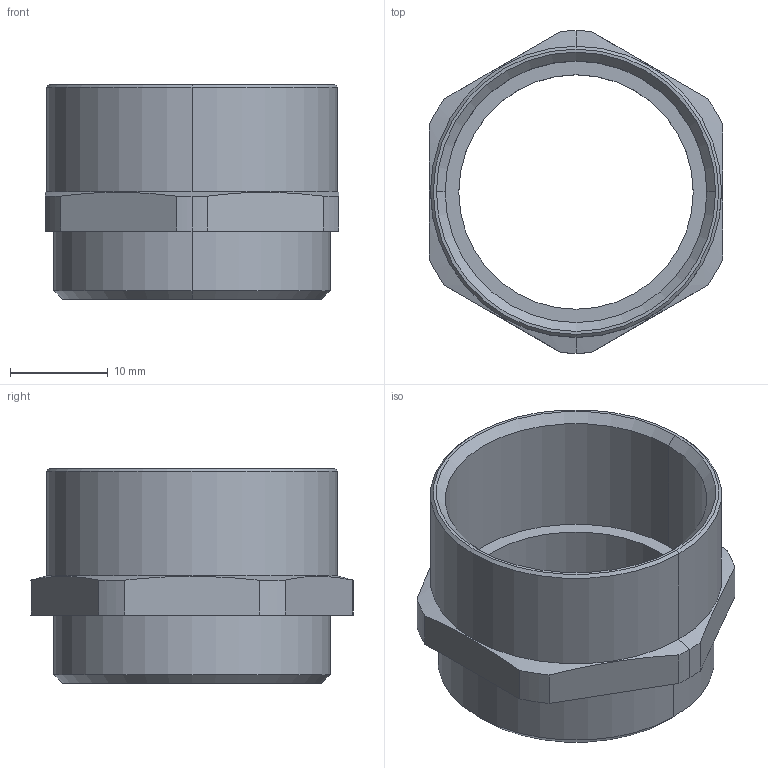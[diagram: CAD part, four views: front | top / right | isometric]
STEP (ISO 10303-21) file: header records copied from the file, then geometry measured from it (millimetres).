
FILE_DESCRIPTION (( 'STEP AP203' ), '1' );
FILE_NAME ('06321 MU.STEP', '2006-03-13T09:58:24', ( ' ' ), ( '' ), 'SwSTEP 2.0', 'SolidWorks 2005278', '' );
FILE_SCHEMA (( 'CONFIG_CONTROL_DESIGN' ));
Length unit declared in the file: millimetre
Products named in the file (1): 06321 MU
Bounding box: 30 x 33 x 22 mm (x, y, z)
Volume: 3617.5 mm3; surface area: 4327.6 mm2
Topology: 1 solids, 1 shells, 72 faces, 184 edges, 119 vertices
Faces by surface type: plane 47, cylinder 15, cone 10
Entity records: 2258 total; most frequent: CARTESIAN_POINT 406, ORIENTED_EDGE 368, DIRECTION 363, EDGE_CURVE 184, LINE 139, VECTOR 139, VERTEX_POINT 119, AXIS2_PLACEMENT_3D 112
